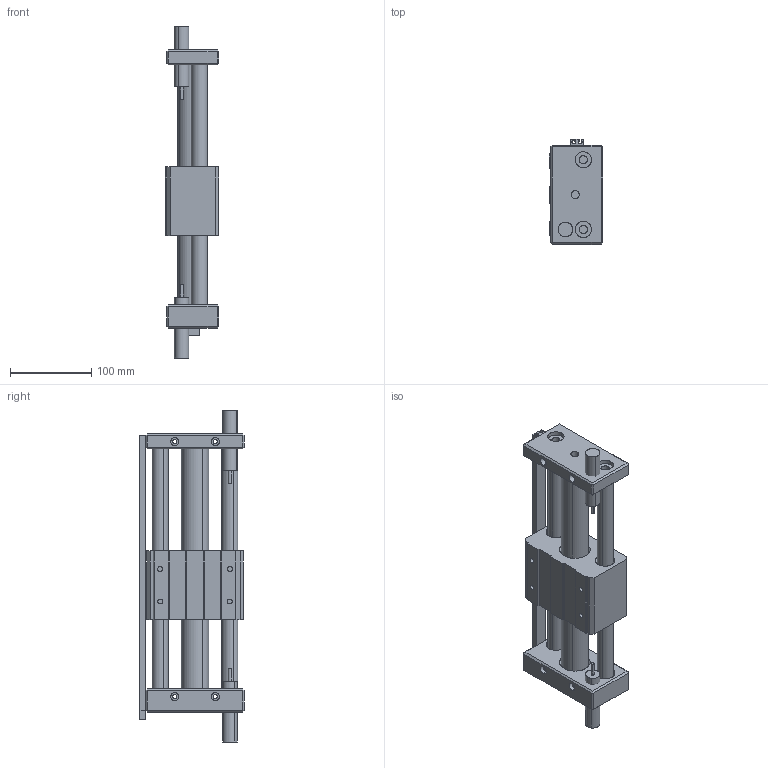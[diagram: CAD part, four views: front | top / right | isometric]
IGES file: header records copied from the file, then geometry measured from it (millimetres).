
Start section: SolidWorks IGES file using analytic representation for surfaces
Global section: file name: D:\Documents de SGA\Pieces 2D et 3D\GRU\iges\GRU 32.200.IGS; native system: SolidWorks 2010; preprocessor: SolidWorks 2010; author: SGA; date: 111216.115053; units: millimetre
Bounding box: 66 x 129.44 x 409.57 mm (x, y, z)
Surface area: 249649.7 mm2 (no closed solid volume)
Topology: 0 solids, 0 shells, 264 faces, 3980 edges, 3980 vertices
Faces by surface type: bspline 138, revolution 126
